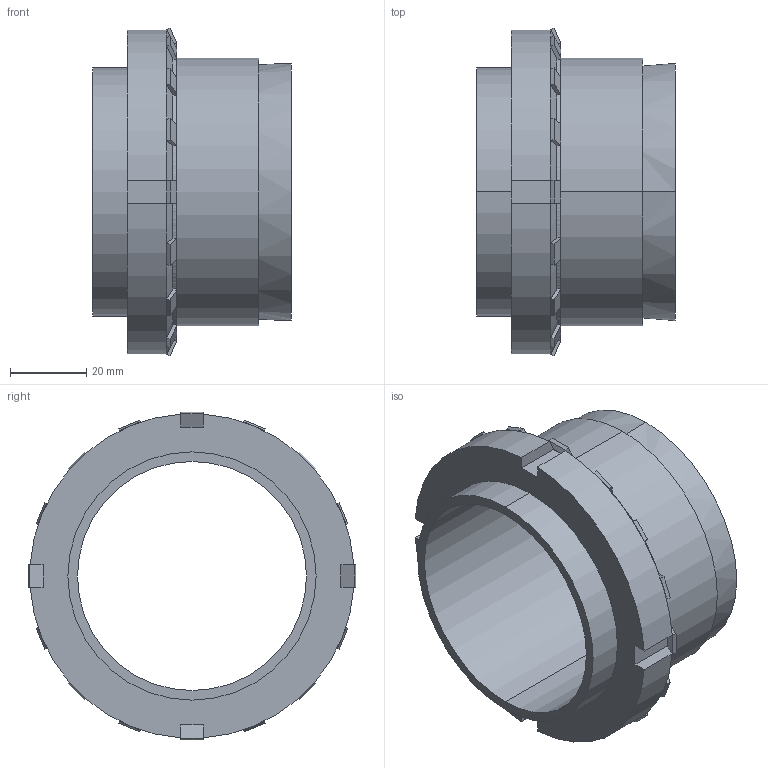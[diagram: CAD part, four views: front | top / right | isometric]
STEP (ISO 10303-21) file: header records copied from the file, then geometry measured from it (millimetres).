
FILE_DESCRIPTION (( 'STEP AP203' ), '1' );
FILE_NAME ('SI-60.STEP', '2009-09-29T17:26:41', ( 'USER' ), ( 'HOME' ), 'SwSTEP 2.0', 'SolidWorks 2007', '' );
FILE_SCHEMA (( 'CONFIG_CONTROL_DESIGN' ));
Length unit declared in the file: millimetre
Products named in the file (1): SI-60
Bounding box: 52 x 85.85 x 85.85 mm (x, y, z)
Volume: 89113.6 mm3; surface area: 96854.8 mm2
Topology: 19 solids, 19 shells, 230 faces, 570 edges, 378 vertices
Faces by surface type: plane 130, cylinder 92, cone 8
Entity records: 7017 total; most frequent: CARTESIAN_POINT 1251, DIRECTION 1210, ORIENTED_EDGE 1140, EDGE_CURVE 570, AXIS2_PLACEMENT_3D 425, VERTEX_POINT 378, VECTOR 360, LINE 360
